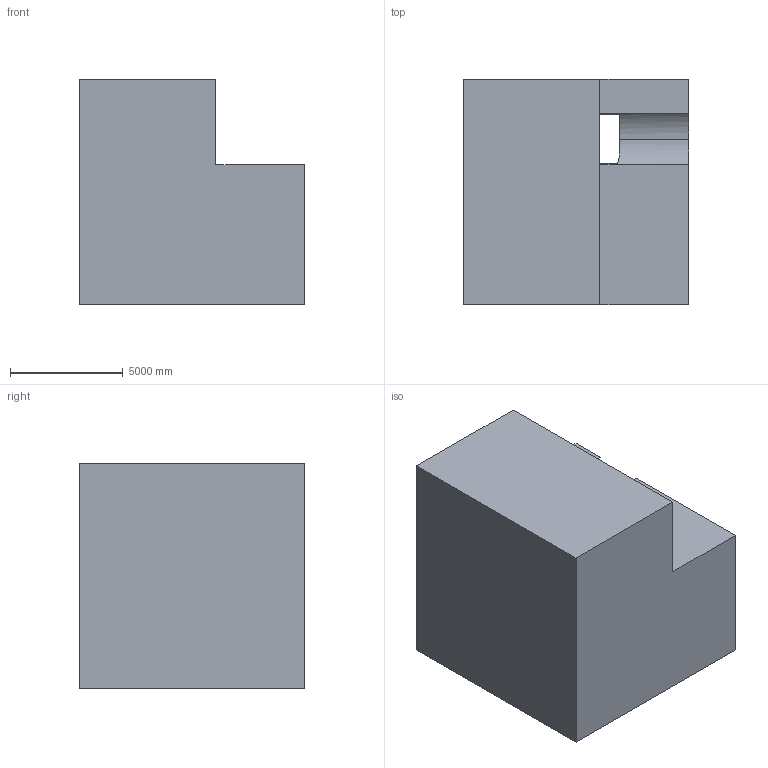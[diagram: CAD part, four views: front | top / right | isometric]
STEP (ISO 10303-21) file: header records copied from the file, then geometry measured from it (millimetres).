
FILE_DESCRIPTION (( 'STEP AP203' ), '1' );
FILE_NAME ('290.STEP', '2022-07-28T14:13:33', ( 'user' ), ( '' ), 'SwSTEP 2.0', 'SolidWorks 2021', '' );
FILE_SCHEMA (( 'CONFIG_CONTROL_DESIGN' ));
Length unit declared in the file: centimetre
Products named in the file (1): 290
Bounding box: 10000 x 10000 x 10000 mm (x, y, z)
Volume: 761991097247.1 mm3; surface area: 628331898.9 mm2
Topology: 1 solids, 1 shells, 17 faces, 51 edges, 34 vertices
Faces by surface type: plane 14, cylinder 3
Entity records: 696 total; most frequent: CARTESIAN_POINT 145, ORIENTED_EDGE 102, DIRECTION 97, EDGE_CURVE 51, LINE 37, VECTOR 37, VERTEX_POINT 34, AXIS2_PLACEMENT_3D 30
